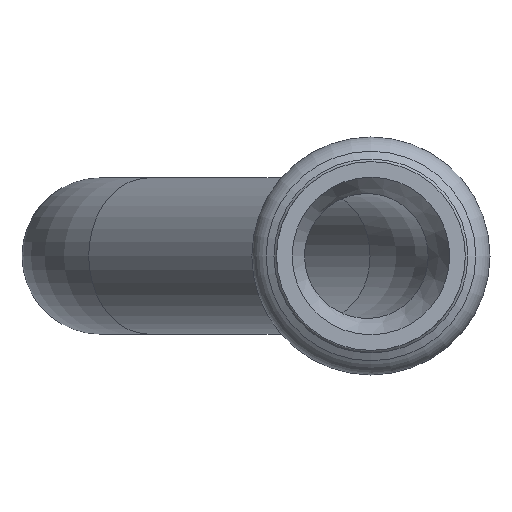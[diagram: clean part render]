
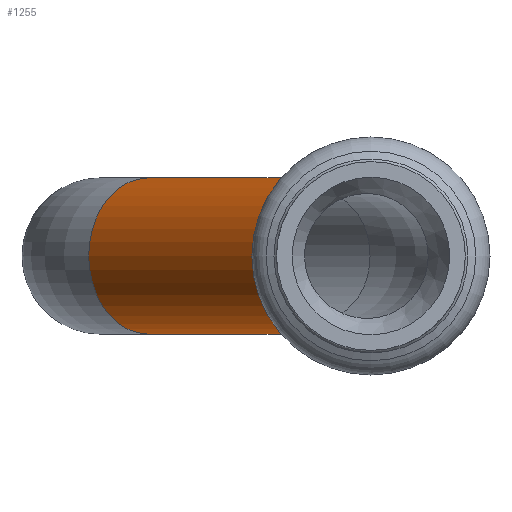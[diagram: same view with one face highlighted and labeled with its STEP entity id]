
A CAD part, left-side view. The second image highlights one B-rep face of the part: STEP entity #1255.
In plain terms, the highlighted cylindrical face has radius 7.5 mm (diameter 15 mm), a full revolution.
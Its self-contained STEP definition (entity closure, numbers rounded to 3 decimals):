
#1224=CARTESIAN_POINT('',(-17.677,27.136,0.));
#1225=VERTEX_POINT('',#1224);
#1226=CARTESIAN_POINT('',(-12.856,21.391,0.0));
#1227=DIRECTION('',(-0.766,-0.643,0.0));
#1228=DIRECTION('',(0.643,-0.766,0.0));
#1229=AXIS2_PLACEMENT_3D('',#1226,#1227,#1228);
#1230=CIRCLE('',#1229,7.5);
#1231=EDGE_CURVE('',#1225,#1225,#1230,.T.);
#1236=CARTESIAN_POINT('',(-32.772,4.679,0.0));
#1237=DIRECTION('',(0.766,0.643,0.0));
#1238=DIRECTION('',(0.643,-0.766,0.0));
#1239=AXIS2_PLACEMENT_3D('',#1236,#1237,#1238);
#1240=CYLINDRICAL_SURFACE('',#1239,7.5);
#1241=ORIENTED_EDGE('',*,*,#1231,.T.);
#1242=EDGE_LOOP('',(#1241));
#1243=FACE_OUTER_BOUND('',#1242,.T.);
#1244=CARTESIAN_POINT('',(-37.593,10.424,0.));
#1245=VERTEX_POINT('',#1244);
#1246=CARTESIAN_POINT('',(-32.772,4.679,0.0));
#1247=DIRECTION('',(-0.766,-0.643,0.0));
#1248=DIRECTION('',(0.643,-0.766,0.0));
#1249=AXIS2_PLACEMENT_3D('',#1246,#1247,#1248);
#1250=CIRCLE('',#1249,7.5);
#1251=EDGE_CURVE('',#1245,#1245,#1250,.T.);
#1252=ORIENTED_EDGE('',*,*,#1251,.F.);
#1253=EDGE_LOOP('',(#1252));
#1254=FACE_BOUND('',#1253,.T.);
#1255=ADVANCED_FACE('',(#1243,#1254),#1240,.T.);
